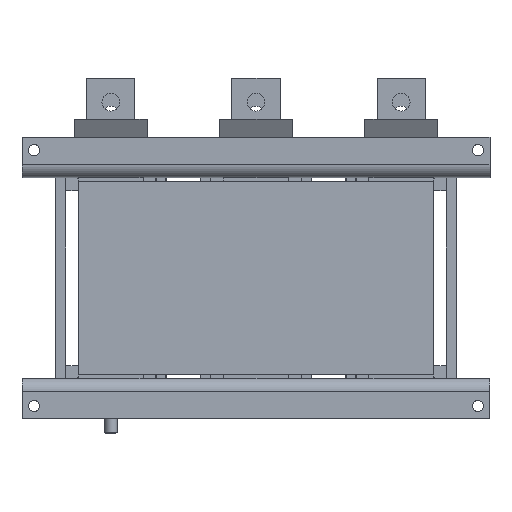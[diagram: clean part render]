
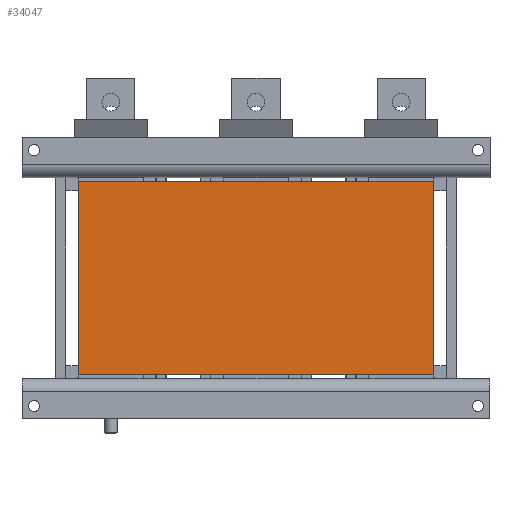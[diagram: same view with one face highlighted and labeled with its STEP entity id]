
A CAD part, front view. The second image highlights one B-rep face of the part: STEP entity #34047.
In plain terms, the highlighted planar face has unit normal (0, -1, 0).
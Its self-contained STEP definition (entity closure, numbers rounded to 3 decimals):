
#718=LINE('',#48567,#4057);
#968=LINE('',#49490,#4307);
#969=LINE('',#49491,#4308);
#970=LINE('',#49492,#4309);
#4057=VECTOR('',#39329,10.);
#4307=VECTOR('',#40089,10.);
#4308=VECTOR('',#40090,10.);
#4309=VECTOR('',#40091,10.);
#7424=PLANE('',#36233);
#9271=FACE_OUTER_BOUND('',#11268,.T.);
#11268=EDGE_LOOP('',(#23409,#23410,#23411,#23412));
#14534=VERTEX_POINT('',#48564);
#14535=VERTEX_POINT('',#48566);
#14844=VERTEX_POINT('',#49488);
#14845=VERTEX_POINT('',#49489);
#17799=EDGE_CURVE('',#14535,#14534,#718,.T.);
#18208=EDGE_CURVE('',#14844,#14845,#968,.T.);
#18209=EDGE_CURVE('',#14535,#14844,#969,.T.);
#18210=EDGE_CURVE('',#14845,#14534,#970,.T.);
#23409=ORIENTED_EDGE('',*,*,#18208,.F.);
#23410=ORIENTED_EDGE('',*,*,#18209,.F.);
#23411=ORIENTED_EDGE('',*,*,#17799,.T.);
#23412=ORIENTED_EDGE('',*,*,#18210,.F.);
#34047=ADVANCED_FACE('',(#9271),#7424,.T.);
#36233=AXIS2_PLACEMENT_3D('',#49487,#40087,#40088);
#39329=DIRECTION('',(0.,0.,1.));
#40087=DIRECTION('center_axis',(0.,-1.,0.));
#40088=DIRECTION('ref_axis',(1.,0.,0.));
#40089=DIRECTION('',(0.,0.,1.));
#40090=DIRECTION('',(-1.,0.,0.));
#40091=DIRECTION('',(1.,0.,0.));
#48564=CARTESIAN_POINT('',(110.,-135.15,60.));
#48566=CARTESIAN_POINT('',(110.,-135.15,-60.));
#48567=CARTESIAN_POINT('',(110.,-135.15,0.));
#49487=CARTESIAN_POINT('Origin',(-110.,-135.15,0.));
#49488=CARTESIAN_POINT('',(-110.,-135.15,-60.));
#49489=CARTESIAN_POINT('',(-110.,-135.15,60.));
#49490=CARTESIAN_POINT('',(-110.,-135.15,0.));
#49491=CARTESIAN_POINT('',(-110.,-135.15,-60.));
#49492=CARTESIAN_POINT('',(-110.,-135.15,60.));
